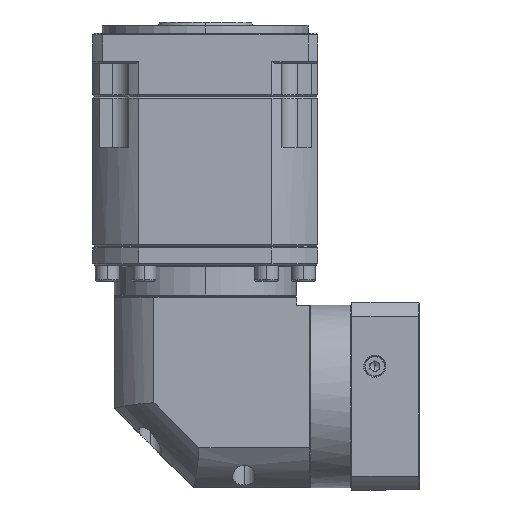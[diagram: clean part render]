
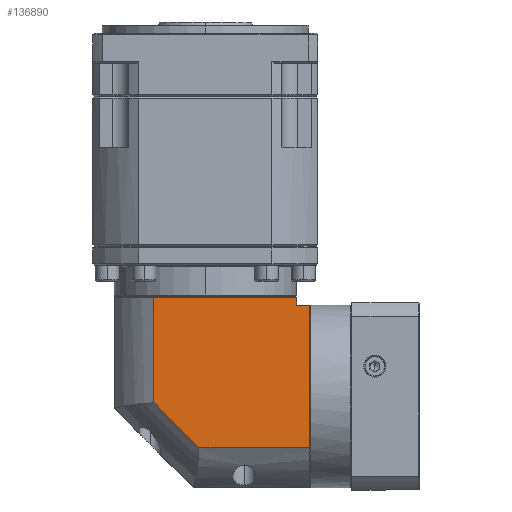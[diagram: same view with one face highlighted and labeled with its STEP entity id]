
A CAD part, left-side view. The second image highlights one B-rep face of the part: STEP entity #136890.
In plain terms, the highlighted planar face has unit normal (-1, 0, 0).
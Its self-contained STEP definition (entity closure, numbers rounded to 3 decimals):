
#2128 = EDGE_CURVE ( 'NONE', #97654, #91448, #3675, .T. ) ;
#2757 = DIRECTION ( 'NONE',  ( 0., 0.707, 0.707 ) ) ;
#2840 = CARTESIAN_POINT ( 'NONE',  ( -243.337, -94.537, 86.945 ) ) ;
#3675 = LINE ( 'NONE', #164947, #144438 ) ;
#5490 = AXIS2_PLACEMENT_3D ( 'NONE', #141682, #156632, #60598 ) ;
#10133 = CARTESIAN_POINT ( 'NONE',  ( -243.337, -86.137, 91.945 ) ) ;
#10708 = EDGE_CURVE ( 'NONE', #137714, #24429, #145617, .T. ) ;
#18908 = CARTESIAN_POINT ( 'NONE',  ( -243.337, 3.763, 91.945 ) ) ;
#22715 = CARTESIAN_POINT ( 'NONE',  ( -243.337, 28.863, 91.945 ) ) ;
#24429 = VERTEX_POINT ( 'NONE', #140404 ) ;
#27298 = DIRECTION ( 'NONE',  ( 0., 0., -1. ) ) ;
#32363 = LINE ( 'NONE', #22715, #119715 ) ;
#34157 = FACE_OUTER_BOUND ( 'NONE', #77916, .T. ) ;
#39501 = VECTOR ( 'NONE', #171351, 1000. ) ;
#45173 = EDGE_CURVE ( 'NONE', #148482, #72295, #32363, .T. ) ;
#46196 = ORIENTED_EDGE ( 'NONE', *, *, #148924, .F. ) ;
#58620 = ORIENTED_EDGE ( 'NONE', *, *, #2128, .F. ) ;
#60598 = DIRECTION ( 'NONE',  ( 0., 1., 0. ) ) ;
#61899 = ORIENTED_EDGE ( 'NONE', *, *, #10708, .T. ) ;
#62045 = DIRECTION ( 'NONE',  ( 0., -1., 0. ) ) ;
#62210 = CARTESIAN_POINT ( 'NONE',  ( -243.337, -86.137, 86.945 ) ) ;
#63208 = CARTESIAN_POINT ( 'NONE',  ( -243.337, -24.575, -2.954 ) ) ;
#67798 = CARTESIAN_POINT ( 'NONE',  ( -243.337, -94.537, 98.445 ) ) ;
#72295 = VERTEX_POINT ( 'NONE', #10133 ) ;
#73124 = ORIENTED_EDGE ( 'NONE', *, *, #121246, .F. ) ;
#73698 = PLANE ( 'NONE',  #5490 ) ;
#75606 = DIRECTION ( 'NONE',  ( 0., 0., 1. ) ) ;
#76007 = LINE ( 'NONE', #176252, #174222 ) ;
#76498 = DIRECTION ( 'NONE',  ( 0., 1., 0. ) ) ;
#77916 = EDGE_LOOP ( 'NONE', ( #73124, #58620, #46196, #103602, #61899, #162138, #95738 ) ) ;
#81534 = VECTOR ( 'NONE', #76498, 1000. ) ;
#84126 = CARTESIAN_POINT ( 'NONE',  ( -243.337, -94.537, -2.954 ) ) ;
#88779 = EDGE_CURVE ( 'NONE', #137714, #109648, #165673, .T. ) ;
#91368 = CARTESIAN_POINT ( 'NONE',  ( -243.337, 28.863, -2.954 ) ) ;
#91448 = VERTEX_POINT ( 'NONE', #153387 ) ;
#93897 = DIRECTION ( 'NONE',  ( 0., 0., 1. ) ) ;
#95738 = ORIENTED_EDGE ( 'NONE', *, *, #45173, .F. ) ;
#97654 = VERTEX_POINT ( 'NONE', #63208 ) ;
#101843 = CARTESIAN_POINT ( 'NONE',  ( -243.337, -86.137, -28.055 ) ) ;
#103602 = ORIENTED_EDGE ( 'NONE', *, *, #88779, .F. ) ;
#107706 = LINE ( 'NONE', #91368, #39501 ) ;
#109648 = VERTEX_POINT ( 'NONE', #84126 ) ;
#116504 = VECTOR ( 'NONE', #27298, 1000. ) ;
#119715 = VECTOR ( 'NONE', #62045, 1000. ) ;
#121246 = EDGE_CURVE ( 'NONE', #91448, #148482, #76007, .T. ) ;
#136890 = ADVANCED_FACE ( 'NONE', ( #34157 ), #73698, .F. ) ;
#137714 = VERTEX_POINT ( 'NONE', #2840 ) ;
#140404 = CARTESIAN_POINT ( 'NONE',  ( -243.337, -86.137, 86.945 ) ) ;
#141682 = CARTESIAN_POINT ( 'NONE',  ( -243.337, 28.863, 98.445 ) ) ;
#144438 = VECTOR ( 'NONE', #2757, 1000. ) ;
#145617 = LINE ( 'NONE', #62210, #81534 ) ;
#148482 = VERTEX_POINT ( 'NONE', #18908 ) ;
#148924 = EDGE_CURVE ( 'NONE', #109648, #97654, #107706, .T. ) ;
#149789 = VECTOR ( 'NONE', #75606, 1000. ) ;
#153387 = CARTESIAN_POINT ( 'NONE',  ( -243.337, 3.763, 25.384 ) ) ;
#156632 = DIRECTION ( 'NONE',  ( 1., 0., 0. ) ) ;
#162138 = ORIENTED_EDGE ( 'NONE', *, *, #174097, .T. ) ;
#164947 = CARTESIAN_POINT ( 'NONE',  ( -243.337, -24.575, -2.954 ) ) ;
#165673 = LINE ( 'NONE', #67798, #116504 ) ;
#168964 = LINE ( 'NONE', #101843, #149789 ) ;
#171351 = DIRECTION ( 'NONE',  ( 0., 1., 0. ) ) ;
#174097 = EDGE_CURVE ( 'NONE', #24429, #72295, #168964, .T. ) ;
#174222 = VECTOR ( 'NONE', #93897, 1000. ) ;
#176252 = CARTESIAN_POINT ( 'NONE',  ( -243.337, 3.763, 98.445 ) ) ;
